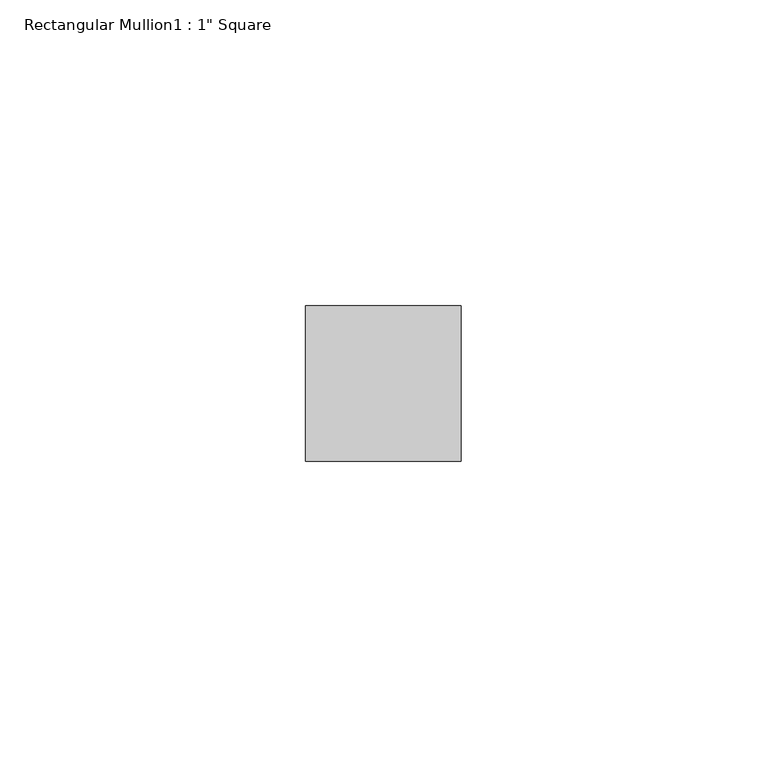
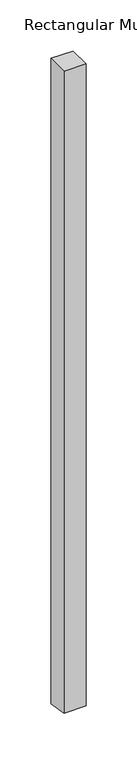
"""IFC4 building model written with IfcOpenShell, lengths in millimetres: member geometry."""

from ifc_helpers import new_model, si_unit, frame, origin, place, context, project, spatial, polyline, outline, extrude, source, transform, mapped, element, save


def member_f42e476a(model_context):
    return source(origin(), model_context, "Body", "SweptSolid", [
        extrude(outline(polyline([(-44.45, 0.0), (-19.05, 0.0), (-19.05, -772.1183041), (-44.45, -768.0924493), (-44.45, 0.0)])), frame((-25.4, 0.0, 0.0), z_axis=(1.0, 0.0, 0.0), x_axis=(0.0, 1.0, 0.0)), (0.0, 0.0, 1.0), 25.4),
    ])


if __name__ == "__main__":
    model = new_model("IFC4")
    model_context = context("Model", 3, world=origin())
    ifc_project = project(units=[si_unit("LENGTHUNIT", "METRE", prefix="MILLI")], contexts=[model_context])
    site = spatial("IfcSite", under=ifc_project)
    building = spatial("IfcBuilding", under=site)
    placement = place(None, origin())
    member_shape = member_f42e476a(model_context)
    element("IfcMember", 1, ObjectType="Rectangular Mullion1 : 1\" Square", at=placement, inside=building, context=model_context, shape_type="MappedRepresentation", body=[
        mapped(member_shape, transform((0.0, 0.0, 0.0), x_axis=(1.0, 0.0, 0.0), y_axis=(0.0, 1.0, 0.0), z_axis=(0.0, 0.0, 1.0))),
    ])
    save(model, "model.ifc")
